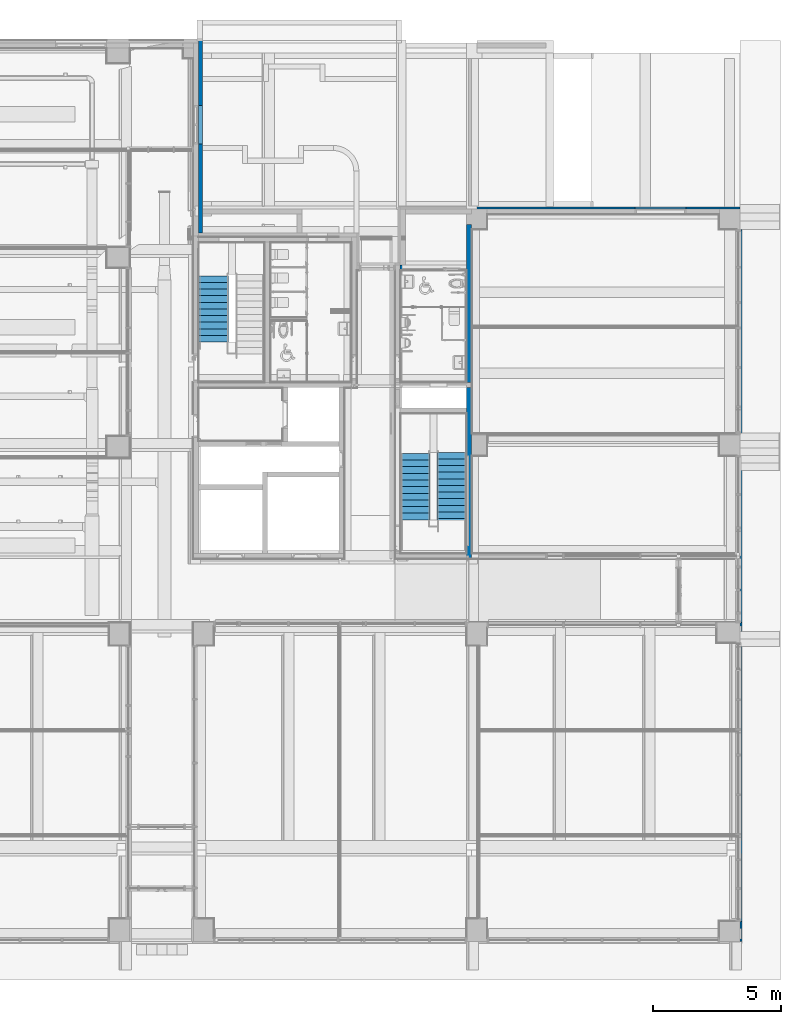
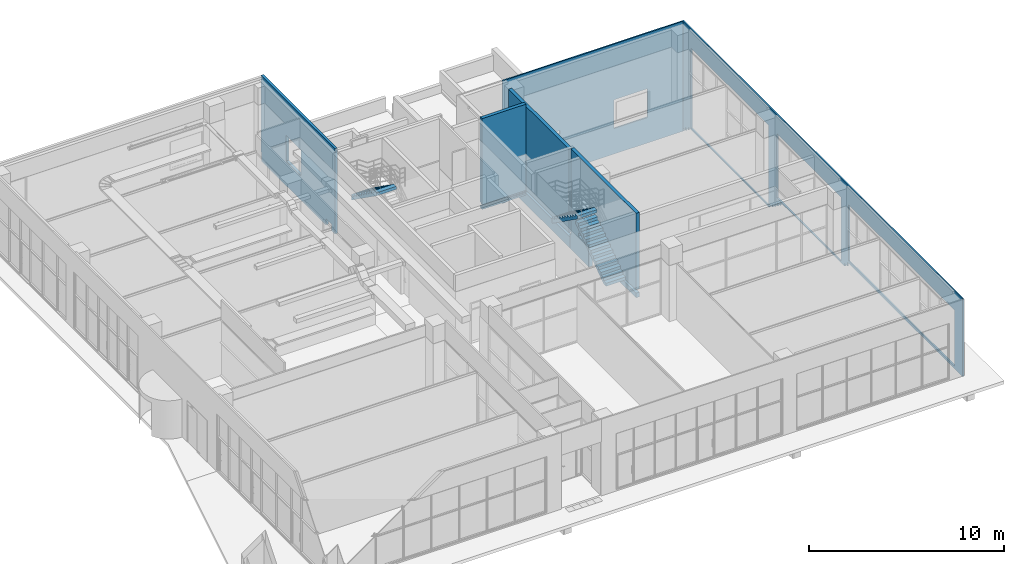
# One storey, part 68 of 100: 6 walls, 3 stair flights, 2 elements without a shape of their own.
"""IFC2X3 building model written with IfcOpenShell, lengths in millimetres."""

from ifc_helpers import new_model, entity, si_unit, converted_unit, derived_unit, direction, frame, origin, place, context, subcontext, project, spatial, faceted_brep, material, layer, layer_set, type_object, element, aggregate, save


model = new_model("IFC2X3")

# Units and contexts
model_context = context("Model", 3, precision=0.01, world=origin(), true_north=direction((6.123031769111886e-17, 1.0)))
body_context = subcontext(model_context, "Body", "Model", "MODEL_VIEW")
ifc_project = project(units=[si_unit("LENGTHUNIT", "METRE", prefix="MILLI"), si_unit("AREAUNIT", "SQUARE_METRE"), si_unit("VOLUMEUNIT", "CUBIC_METRE"), converted_unit("PLANEANGLEUNIT", "DEGREE", entity("IfcRatioMeasure", 0.017453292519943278), si_unit("PLANEANGLEUNIT", "RADIAN"), dimensions=[0, 0, 0, 0, 0, 0, 0]), si_unit("MASSUNIT", "GRAM", prefix="KILO"), derived_unit("MASSDENSITYUNIT", [(si_unit("MASSUNIT", "GRAM", prefix="KILO"), 1), (si_unit("LENGTHUNIT", "METRE"), -3)]), derived_unit("MOMENTOFINERTIAUNIT", [(si_unit("LENGTHUNIT", "METRE"), 4)]), si_unit("TIMEUNIT", "SECOND"), si_unit("FREQUENCYUNIT", "HERTZ"), si_unit("THERMODYNAMICTEMPERATUREUNIT", "DEGREE_CELSIUS"), derived_unit("THERMALTRANSMITTANCEUNIT", [(si_unit("MASSUNIT", "GRAM", prefix="KILO"), 1), (si_unit("THERMODYNAMICTEMPERATUREUNIT", "KELVIN"), -1), (si_unit("TIMEUNIT", "SECOND"), -3)]), derived_unit("VOLUMETRICFLOWRATEUNIT", [(si_unit("LENGTHUNIT", "METRE"), 3), (si_unit("TIMEUNIT", "SECOND"), -1)]), derived_unit("MASSFLOWRATEUNIT", [(si_unit("MASSUNIT", "GRAM", prefix="KILO"), 1), (si_unit("TIMEUNIT", "SECOND"), -1)]), derived_unit("ROTATIONALFREQUENCYUNIT", [(si_unit("TIMEUNIT", "SECOND"), -1)]), si_unit("ELECTRICCURRENTUNIT", "AMPERE"), si_unit("ELECTRICVOLTAGEUNIT", "VOLT"), si_unit("POWERUNIT", "WATT"), si_unit("FORCEUNIT", "NEWTON", prefix="KILO"), si_unit("ILLUMINANCEUNIT", "LUX"), si_unit("LUMINOUSFLUXUNIT", "LUMEN"), si_unit("LUMINOUSINTENSITYUNIT", "CANDELA"), derived_unit("USERDEFINED", [(si_unit("MASSUNIT", "GRAM", prefix="KILO"), -1), (si_unit("LENGTHUNIT", "METRE"), -2), (si_unit("TIMEUNIT", "SECOND"), 3), (si_unit("LUMINOUSFLUXUNIT", "LUMEN"), 1)]), derived_unit("SOUNDPOWERUNIT", [(si_unit("MASSUNIT", "GRAM", prefix="KILO"), 1), (si_unit("LENGTHUNIT", "METRE"), 2), (si_unit("TIMEUNIT", "SECOND"), -3)]), derived_unit("SOUNDPRESSUREUNIT", [(si_unit("MASSUNIT", "GRAM", prefix="KILO"), 1), (si_unit("LENGTHUNIT", "METRE"), -1), (si_unit("TIMEUNIT", "SECOND"), -2)]), derived_unit("LINEARVELOCITYUNIT", [(si_unit("LENGTHUNIT", "METRE"), 1), (si_unit("TIMEUNIT", "SECOND"), -1)]), si_unit("PRESSUREUNIT", "PASCAL"), derived_unit("USERDEFINED", [(si_unit("LENGTHUNIT", "METRE"), -2), (si_unit("MASSUNIT", "GRAM", prefix="KILO"), 1), (si_unit("TIMEUNIT", "SECOND"), -2)]), derived_unit("LINEARFORCEUNIT", [(si_unit("MASSUNIT", "GRAM", prefix="KILO"), 1), (si_unit("LENGTHUNIT", "METRE"), 1), (si_unit("TIMEUNIT", "SECOND"), -2), (si_unit("LENGTHUNIT", "METRE"), -1)]), derived_unit("PLANARFORCEUNIT", [(si_unit("MASSUNIT", "GRAM", prefix="KILO"), 1), (si_unit("LENGTHUNIT", "METRE"), 1), (si_unit("TIMEUNIT", "SECOND"), -2), (si_unit("LENGTHUNIT", "METRE"), -2)])], contexts=[model_context])

# Site, building, storey
site_placement = place(None, frame((-14167.972527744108, -657.2125860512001, 0.0)))
site = spatial("IfcSite", under=ifc_project, at=site_placement, Name="Default", CompositionType="ELEMENT")
building_placement = place(site_placement, origin())
building = spatial("IfcBuilding", under=site, at=building_placement, Name="Sample Building", CompositionType="ELEMENT")
storey_placement = place(building_placement, origin())
storey = spatial("IfcBuildingStorey", under=building, at=storey_placement, Name="지상 1층", CompositionType="ELEMENT", Elevation=0.0)

# Walls
ifc_material_1 = material(Name="KBIMS-콘크리트")
ifc_layer_1 = layer(ifc_material_1, 200.0)
ifc_layer_set_1 = layer_set([ifc_layer_1], Name="기본 벽:WA111-철근콘크리트구조 벽 200mm_CW1")
wall_type_1 = type_object("IfcWallType", Name="기본 벽:WA111-철근콘크리트구조 벽 200mm_CW1", PredefinedType="STANDARD", material=ifc_layer_set_1)
wall_1_placement = place(storey_placement, frame((40867.96379814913, 15557.212295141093, -1500.0), z_axis=(0.0, 0.0, 1.0), x_axis=(0.0, 1.0, 0.0)))
element("IfcWall", 1, at=wall_1_placement, inside=storey, type_object=wall_type_1, Name="기본 벽:WA111-철근콘크리트구조 벽 200mm_CW1", ObjectType="기본 벽:WA111-철근콘크리트구조 벽 200mm_CW1", context=body_context, shape_type="Brep", body=[
    faceted_brep([(0.0, -100.0, 1000.0), (200.0, -100.0, 1000.0), (4037.5000128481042, -100.0, 1000.0), (4800.000087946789, -100.0, 1000.0), (4837.500012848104, -100.0, 1000.0), (4837.500012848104, -100.0, 0.0), (6800.0, -100.0, 0.0), (6800.0, -100.0, 700.0), (6800.0, -100.0, 900.0), (6700.0, -100.0, 900.0), (6700.0, -100.0, 6300.0), (200.0, -100.0, 6300.0), (0.0, -100.0, 6300.0), (0.0, -100.0, 6150.0), (0.0, -100.0, 1500.0), (4037.5000128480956, -100.0, 1500.0), (4837.500012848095, -100.0, 1500.0), (5900.0, -100.0, 1500.0), (5900.0, -100.0, 1300.0), (0.0, -100.0, 1300.0), (4837.500012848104, 100.0, 1000.0), (0.0, 100.0, 1000.0), (0.0, 100.0, 1300.0), (5900.0, 100.0, 1300.0), (5900.0, 100.0, 1500.0), (5700.0, 100.0, 1500.0), (200.0, 100.0, 1500.0), (0.0, 100.0, 1500.0), (0.0, 100.0, 6300.0), (200.0, 100.0, 6300.0), (5700.0, 100.0, 6300.0), (5900.0, 100.0, 6300.0), (6700.0, 100.0, 6300.0), (6700.0, 100.0, 900.0), (6800.0, 100.0, 900.0), (6800.0, 100.0, 700.0), (6800.0, 100.0, 0.0), (4837.500012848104, 100.0, 0.0), (0.0, 0.0, 1000.0)], [[[0, 1, 2, 3, 4, 5, 6, 7, 8, 9, 10, 11, 12, 13, 14, 15, 16, 17, 18, 19]], [[20, 21, 22, 23, 24, 25, 26, 27, 28, 29, 30, 31, 32, 33, 34, 35, 36, 37]], [[21, 38, 0, 19, 22]], [[10, 9, 33, 32]], [[4, 3, 2, 1, 0, 38, 21, 20]], [[12, 11, 10, 32, 31, 30, 29, 28]], [[6, 5, 37, 36]], [[36, 35, 34, 8, 7, 6]], [[9, 8, 34, 33]], [[5, 4, 20, 37]], [[18, 23, 22, 19]], [[24, 17, 16, 15, 14, 27, 26, 25]], [[23, 18, 17, 24]], [[12, 28, 27, 14, 13]]]),
])
wall_2_placement = place(storey_placement, frame((38167.96379814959, 26957.21229514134, -900.0)))
element("IfcWall", 2, at=wall_2_placement, inside=storey, type_object=wall_type_1, Name="기본 벽:WA111-철근콘크리트구조 벽 200mm_CW1", ObjectType="기본 벽:WA111-철근콘크리트구조 벽 200mm_CW1", context=body_context, shape_type="Brep", body=[
    faceted_brep([(0.0, -100.0, 0.0), (75.28210094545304, -100.0, 0.0), (2600.0, -100.0, 0.0), (2600.0, -100.0, 100.0), (75.28210094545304, -100.0, 100.0), (0.0, -100.0, 100.0), (2600.0, 100.0, 0.0), (75.28210094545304, 100.0, 0.0), (0.0, 100.0, 0.0), (0.0, 100.0, 150.0), (75.28210094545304, 100.0, 150.0), (2600.0, 100.0, 150.0), (2600.0, -36.135192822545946, 0.0), (0.0, 0.0, 100.0), (0.0, 0.0, 150.0), (2600.0, 0.0, 150.0), (2600.0, 0.0, 100.0)], [[[0, 1, 2, 3, 4, 5]], [[6, 7, 8, 9, 10, 11]], [[2, 1, 0, 8, 7, 6, 12]], [[8, 0, 5, 13, 14, 9]], [[2, 12, 6, 11, 15, 16, 3]], [[11, 10, 9, 14, 15]], [[16, 13, 5, 4, 3]], [[13, 16, 15, 14]]]),
    faceted_brep([(0.0, -100.0, 5700.0), (2600.0, -100.0, 5700.0), (2600.0, 100.0, 5700.0), (200.00869297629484, 100.0, 5700.0), (0.0, 100.0, 5700.0), (2600.0, -100.0, 300.0), (0.0, -100.0, 300.0), (0.0, 0.0, 300.0), (2600.0, 0.0, 300.0), (2600.0, 0.0, 350.0), (0.0, 0.0, 350.0), (0.0, 100.0, 350.0), (200.00869297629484, 100.0, 350.0), (2600.0, 100.0, 350.0), (-0.008736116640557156, 0.0, 350.0), (0.0, -100.0, 350.0)], [[[0, 1, 2, 3, 4]], [[5, 6, 7, 8]], [[9, 10, 11, 12, 13]], [[14, 9, 8, 7]], [[2, 1, 5, 8, 9, 13]], [[0, 4, 11, 10, 7, 6, 15]], [[4, 3, 2, 13, 12, 11]], [[1, 0, 15, 6, 5]]]),
])
wall_3_placement = place(storey_placement, frame((40867.963798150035, 28657.212307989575, -1500.0), z_axis=(0.0, 0.0, 1.0), x_axis=(0.0, -1.0, 0.0)))
element("IfcWall", 3, at=wall_3_placement, inside=storey, type_object=wall_type_1, Name="기본 벽:WA111-철근콘크리트구조 벽 200mm_CW1", ObjectType="기본 벽:WA111-철근콘크리트구조 벽 200mm_CW1", context=body_context, shape_type="Brep", body=[
    faceted_brep([(0.0, -100.0, 0.0), (6300.0, -100.0, 0.0), (6300.0, -100.0, 700.0), (6286.1351894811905, -100.0, 700.0), (5886.1351894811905, -100.0, 700.0), (1849.9997037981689, -100.0, 700.0), (1800.0000128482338, -100.0, 700.0), (1700.0000128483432, -100.0, 700.0), (1700.0000128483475, -100.0, 750.0), (1600.0000128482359, -100.0, 750.0), (1436.1352056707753, -100.0, 750.0), (0.0, -100.0, 750.0), (6300.0, 100.0, 0.0), (199.99969094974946, 100.0, 0.0), (0.0, 100.0, 0.0), (0.0, 100.0, 750.0), (1700.0000128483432, 100.0, 750.0), (1700.0000128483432, 100.0, 700.0), (6300.0, 100.0, 700.0)], [[[0, 1, 2, 3, 4, 5, 6, 7, 8, 9, 10, 11]], [[12, 13, 14, 15, 16, 17, 18]], [[1, 0, 14, 13, 12]], [[1, 12, 18, 2]], [[14, 0, 11, 15]], [[11, 10, 9, 8, 16, 15]], [[17, 7, 6, 5, 4, 3, 2, 18]], [[7, 17, 16, 8]]]),
    faceted_brep([(0.0, -100.0, 6150.0), (6200.0, -100.0, 6150.0), (6200.0, 100.0, 6150.0), (199.99969094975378, 100.0, 6150.0), (0.0, 100.0, 6150.0), (6200.0, -100.0, 900.0), (6200.0, 100.0, 900.0), (1700.0000128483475, 100.0, 950.0), (1700.0000128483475, -100.0, 950.0), (1600.0000128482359, -100.0, 950.0), (0.0, -100.0, 950.0), (0.0, 100.0, 950.0), (1700.0000128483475, 100.0, 900.0), (1700.0000128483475, -100.0, 900.0), (1800.0000128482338, -100.0, 900.0), (0.0, 100.0, 1500.0)], [[[0, 1, 2, 3, 4]], [[1, 5, 6, 2]], [[7, 8, 9, 10, 11]], [[8, 7, 12, 13]], [[5, 14, 13, 12, 6]], [[0, 4, 15, 11, 10]], [[4, 3, 2, 6, 12, 7, 11, 15]], [[1, 0, 10, 9, 8, 13, 14, 5]]]),
])
ifc_material_2 = material(Name="KBIMS-화강석 잔다듬")
ifc_layer_2 = layer(ifc_material_2, 80.0)
ifc_layer_set_2 = layer_set([ifc_layer_2], Name="기본 벽:WA313-화강석잔다듬 벽 (30, 건식50) 80mm")
wall_type_2 = type_object("IfcWallType", Name="기본 벽:WA313-화강석잔다듬 벽 (30, 건식50) 80mm", PredefinedType="STANDARD", material=ifc_layer_set_2)
wall_4_placement = place(storey_placement, frame((51507.96382893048, 557.2126170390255, -2100.0), z_axis=(0.0, 0.0, 1.0), x_axis=(0.0, 1.0, 0.0)))
element("IfcWall", 4, at=wall_4_placement, inside=storey, type_object=wall_type_2, Name="기본 벽:WA313-화강석잔다듬 벽 (30, 건식50) 80mm", ObjectType="기본 벽:WA313-화강석잔다듬 벽 (30, 건식50) 80mm", context=body_context, shape_type="Brep", body=[
    faceted_brep([(28779.99967810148, -40.0, 6900.0), (28699.999678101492, -40.0, 6900.0), (0.0, -40.0, 6900.0), (0.0, -40.0, 2100.0), (0.0, -40.0, 2016.6666666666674), (11830.000112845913, -40.0, 2016.6666666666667), (11830.000112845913, -40.0, 1766.6666666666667), (12100.000112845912, -40.0, 1766.6666666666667), (12100.000112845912, -40.0, 1600.0), (18719.999690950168, -40.0, 1600.0), (18719.999690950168, -40.0, 1400.0), (18989.999690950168, -40.0, 1400.0), (18989.999690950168, -40.0, 1200.0), (19259.999690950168, -40.0, 1200.0), (19259.999690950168, -40.0, 1000.0), (19529.999690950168, -40.0, 1000.0), (19529.999690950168, -40.0, 800.0), (19849.99969095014, -40.0, 800.0), (19849.99969095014, -40.0, 600.0), (28159.999678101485, -40.0, 600.0), (28159.999678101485, -40.0, 400.0), (28429.999678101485, -40.0, 400.0), (28429.999678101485, -40.0, 200.0), (28699.999678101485, -40.0, 200.0), (28699.999678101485, -40.0, 0.0), (28779.99967810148, -40.0, 0.0), (799.9818523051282, -40.0, 2180.0), (799.9818523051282, -40.0, 5700.0), (11700.000421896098, -40.0, 5700.0), (11700.000421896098, -40.0, 2180.0), (19899.999690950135, -40.0, 680.0), (19899.999690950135, -40.0, 5700.0), (27882.000087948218, -40.0, 5700.0), (27882.000087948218, -40.0, 680.0), (12499.999766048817, -40.0, 1680.0), (12499.999766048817, -40.0, 5700.0), (19039.999766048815, -40.0, 5700.0), (19039.999766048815, -40.0, 1680.0), (0.0, 40.0, 6900.0), (28699.999678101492, 40.0, 6900.0), (28779.99967810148, 40.0, 6900.0), (28779.99967810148, 40.0, 0.0), (28699.999678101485, 40.0, 0.0), (28699.999678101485, 40.0, 200.0), (28429.999678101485, 40.0, 200.0), (28429.999678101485, 40.0, 400.0), (28159.999678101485, 40.0, 400.0), (28159.999678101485, 40.0, 600.0), (19849.99969095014, 40.0, 600.0), (19849.99969095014, 40.0, 800.0), (19529.999690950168, 40.0, 800.0), (19529.999690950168, 40.0, 1000.0), (19259.999690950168, 40.0, 1000.0), (19259.999690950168, 40.0, 1200.0), (18989.999690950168, 40.0, 1200.0), (18989.999690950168, 40.0, 1400.0), (18719.999690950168, 40.0, 1400.0), (18719.999690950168, 40.0, 1600.0), (12100.000112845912, 40.0, 1600.0), (12100.000112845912, 40.0, 1766.6666666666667), (11830.000112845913, 40.0, 1766.6666666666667), (11830.000112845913, 40.0, 2016.6666666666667), (0.0, 40.0, 2016.6666666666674), (799.9818523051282, 40.0, 5700.0), (799.9818523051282, 40.0, 2180.0), (11700.000421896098, 40.0, 2180.0), (11700.000421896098, 40.0, 5700.0), (19899.999690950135, 40.0, 5700.0), (19899.999690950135, 40.0, 680.0), (27882.000087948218, 40.0, 680.0), (27882.000087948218, 40.0, 5700.0), (12499.999766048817, 40.0, 5700.0), (12499.999766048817, 40.0, 1680.0), (19039.999766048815, 40.0, 1680.0), (19039.999766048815, 40.0, 5700.0)], [[[0, 1, 2, 3, 4, 5, 6, 7, 8, 9, 10, 11, 12, 13, 14, 15, 16, 17, 18, 19, 20, 21, 22, 23, 24, 25], [26, 27, 28, 29], [30, 31, 32, 33], [34, 35, 36, 37]], [[38, 39, 40, 41, 42, 43, 44, 45, 46, 47, 48, 49, 50, 51, 52, 53, 54, 55, 56, 57, 58, 59, 60, 61, 62], [63, 64, 65, 66], [67, 68, 69, 70], [71, 72, 73, 74]], [[4, 3, 2, 38, 62]], [[0, 25, 41, 40]], [[26, 64, 63, 27]], [[65, 29, 28, 66]], [[64, 26, 29, 65]], [[66, 28, 27, 63]], [[67, 31, 30, 68]], [[31, 67, 70, 32]], [[32, 70, 69, 33]], [[68, 30, 33, 69]], [[2, 1, 0, 40, 39, 38]], [[5, 4, 62, 61]], [[6, 5, 61, 60]], [[7, 6, 60, 59]], [[8, 7, 59, 58]], [[9, 8, 58, 57]], [[10, 9, 57, 56]], [[11, 10, 56, 55]], [[12, 11, 55, 54]], [[13, 12, 54, 53]], [[14, 13, 53, 52]], [[15, 14, 52, 51]], [[16, 15, 51, 50]], [[17, 16, 50, 49]], [[18, 17, 49, 48]], [[19, 18, 48, 47]], [[20, 19, 47, 46]], [[21, 20, 46, 45]], [[22, 21, 45, 44]], [[23, 22, 44, 43]], [[24, 23, 43, 42]], [[25, 24, 42, 41]], [[34, 72, 71, 35]], [[35, 71, 74, 36]], [[36, 74, 73, 37]], [[72, 34, 37, 73]]]),
])
wall_5_placement = place(storey_placement, frame((51467.96382893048, 29297.212295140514, -2901.522070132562), z_axis=(0.0, 0.0, 1.0), x_axis=(-1.0, 0.0, 0.0)))
element("IfcWall", 5, at=wall_5_placement, inside=storey, type_object=wall_type_2, Name="기본 벽:WA313-화강석잔다듬 벽 (30, 건식50) 80mm", ObjectType="기본 벽:WA313-화강석잔다듬 벽 (30, 건식50) 80mm", context=body_context, shape_type="Brep", body=[
    faceted_brep([(10705.0, -40.0, 7701.52207013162), (0.0, -40.0, 7701.52207013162), (0.0, -40.0, 801.5220701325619), (5800.411960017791, -40.0, 801.5220701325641), (10705.0, -40.0, 0.0), (10705.0, -40.0, 3101.522070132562), (10700.016622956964, -40.0, 3201.522070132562), (7300.01662295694, -40.0, 3201.522070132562), (7300.01662295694, -40.0, 3401.522070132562), (10700.016622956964, -40.0, 3401.522070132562), (4099.991337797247, -40.0, 4201.522070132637), (4099.991337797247, -40.0, 2401.522070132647), (2099.9913377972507, -40.0, 2401.522070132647), (2099.9913377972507, -40.0, 4201.522070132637), (7300.01662295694, 40.0, 3201.522070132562), (10700.016622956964, 40.0, 3201.522070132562), (10700.016622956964, 40.0, 3401.522070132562), (7300.01662295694, 40.0, 3401.522070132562), (0.0, 40.0, 7701.52207013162), (10700.00872376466, 40.0, 7701.52207013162), (10705.0, 40.0, 7701.52207013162), (10705.0, 40.0, 3101.522070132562), (10705.0, 40.0, 0.0), (5800.411960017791, 40.0, 801.5220701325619), (0.0, 40.0, 801.5220701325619), (0.0, 40.0, 1001.5220701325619), (4099.991337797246, 40.0, 2401.522070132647), (4099.991337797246, 40.0, 4201.522070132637), (2099.9913377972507, 40.0, 4201.522070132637), (2099.9913377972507, 40.0, 2401.522070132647)], [[[0, 1, 2, 3, 4, 5], [6, 7, 8, 9], [10, 11, 12, 13]], [[14, 15, 16, 17], [18, 19, 20, 21, 22, 23, 24, 25], [26, 27, 28, 29]], [[2, 24, 23, 3]], [[20, 0, 5, 4, 22, 21]], [[1, 0, 20, 19, 18]], [[6, 15, 14, 7]], [[8, 17, 16, 9]], [[7, 14, 17, 8]], [[15, 6, 9, 16]], [[4, 3, 23, 22]], [[1, 18, 25, 24, 2]], [[27, 26, 11, 10]], [[28, 27, 10, 13]], [[29, 28, 13, 12]], [[26, 29, 12, 11]]], outer=[[True, False, False], [False, True, False], [True], [True], [True], [True], [True], [True], [True], [True], [True], [True], [True], [True], [True]]),
])
ifc_material_3 = material(Name="WA240-ALC블록벽")
ifc_layer_3 = layer(ifc_material_3, 35.0)
ifc_material_4 = material(Name="WA795-(STEEL)BRACKET")
ifc_layer_4 = layer(ifc_material_4, 65.0)
ifc_material_5 = material(Name="WA821-압출스티로폼 벽 (본드붙임, 비중0.03) 50mm")
ifc_layer_5 = layer(ifc_material_5, 50.0)
ifc_layer_set_3 = layer_set([ifc_layer_3, ifc_layer_4, ifc_layer_5], Name="기본 벽:A2-22-02A-압출스티로폼, BRACKET(STEEL), ALC블록 (150mm)")
wall_type_3 = type_object("IfcWallType", Name="기본 벽:A2-22-02A-압출스티로폼, BRACKET(STEEL), ALC블록 (150mm)", PredefinedType="STANDARD", material=ifc_layer_set_3)
wall_6_placement = place(storey_placement, frame((30342.963761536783, 28307.212307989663, -550.0), z_axis=(0.0, 0.0, 1.0), x_axis=(0.0, 1.0, 0.0)))
element("IfcWall", 6, at=wall_6_placement, inside=storey, type_object=wall_type_3, Name="기본 벽:A2-22-02A-압출스티로폼, BRACKET(STEEL), ALC블록 (150mm)", ObjectType="기본 벽:A2-22-02A-압출스티로폼, BRACKET(STEEL), ALC블록 (150mm)", context=body_context, shape_type="Brep", body=[
    faceted_brep([(7525.0, 75.0, 0.0), (7525.0, -75.0, 0.0), (6135.330659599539, -75.0, 0.0), (5935.330659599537, -75.0, 0.0), (3435.3306220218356, -75.0, 0.0), (3235.3306220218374, -75.0, 0.0), (939.950237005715, -75.0, 0.0), (935.1737967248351, 0.03228448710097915, 0.0), (929.4729434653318, 75.0, 0.0), (338.85178240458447, -75.0, 0.0), (0.0, -75.0, 0.0), (0.0, 75.0, 0.0), (327.22477814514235, 75.0, 0.0), (333.5512018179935, 0.039758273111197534, 0.0), (338.85178240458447, -75.0, 400.0), (0.0, -75.0, 5350.0), (939.950237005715, -75.0, 400.0), (3499.999987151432, -75.0, 3150.0), (3499.999987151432, -75.0, 1550.0), (4999.999987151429, -75.0, 1550.0), (7525.0, -75.0, 550.0), (4999.999987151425, -75.0, 3150.0), (7600.0, -75.0, 5350.0), (7600.0, -75.0, 550.0), (7525.0, 75.0, 550.0), (4999.999987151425, 75.0, 1550.0), (4999.999987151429, 75.0, 3150.0), (7450.0, 75.0, 5350.0), (7600.0, 75.0, 5350.0), (7600.0, 75.0, 550.0), (3499.999987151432, 75.0, 1550.0), (929.4729434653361, 75.0, 400.0), (3499.999987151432, 75.0, 3150.0), (0.0, 75.0, 5350.0), (327.22477814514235, 75.0, 400.0), (935.1729994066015, 0.043699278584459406, 400.0), (333.5501652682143, 0.05313059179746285, 400.0)], [[[0, 1, 2, 3, 4, 5, 6, 7, 8]], [[9, 10, 11, 12, 13]], [[14, 10, 9]], [[14, 15, 10]], [[15, 14, 16]], [[15, 16, 17]], [[17, 16, 18]], [[5, 18, 16]], [[16, 6, 5]], [[4, 18, 5]], [[18, 4, 19]], [[19, 4, 3]], [[19, 3, 2]], [[20, 19, 2]], [[2, 1, 20]], [[20, 21, 19]], [[20, 22, 21]], [[22, 20, 23]], [[17, 21, 22]], [[17, 22, 15]], [[24, 0, 25]], [[24, 25, 26]], [[27, 24, 26]], [[28, 24, 27]], [[29, 24, 28]], [[0, 30, 25]], [[8, 30, 0]], [[30, 8, 31]], [[32, 30, 31]], [[31, 33, 32]], [[33, 31, 34]], [[34, 11, 33]], [[12, 11, 34]], [[32, 33, 27]], [[27, 26, 32]], [[15, 22, 28, 27, 33]], [[33, 11, 10, 15]], [[20, 1, 0, 24]], [[20, 24, 29, 23]], [[22, 23, 29, 28]], [[35, 16, 14, 36, 34, 31]], [[7, 6, 16]], [[35, 7, 16]], [[31, 8, 35]], [[7, 35, 8]], [[34, 36, 12]], [[12, 36, 13]], [[13, 14, 9]], [[14, 13, 36]], [[26, 25, 19, 21]], [[32, 26, 21, 17]], [[30, 32, 17, 18]], [[25, 30, 18, 19]]]),
])

# Stair, stair flight
stair_1_placement = place(storey_placement, origin())
stair_1 = element("IfcStair", 7, at=stair_1_placement, inside=storey, Name="현장타설 계단:계단", ObjectType="현장타설 계단:ST111-철근콘크리트구조 계단 (U형)", ShapeType="NOTDEFINED")
stair_flight_type_1 = type_object("IfcStairFlightType", Name="일체형 계단진행:일체형 계단진행 150mm_철근콘크리트", PredefinedType="STRAIGHT")
stair_flight_1_placement = place(stair_1_placement, frame((30276.125814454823, 24039.72572933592, 0.0)))
stair_flight_1 = element("IfcStairFlight", 8, at=stair_flight_1_placement, type_object=stair_flight_type_1, material=ifc_material_1, Name="현장타설 계단:계단:5949467 Run 3", ObjectType="일체형 계단진행:일체형 계단진행 150mm_철근콘크리트", NumberOfRiser=11, NumberOfTreads=10, RiserHeight=0.6056935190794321, TreadLength=0.8530183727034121, context=body_context, shape_type="Brep", body=[
    faceted_brep([(1171.8545000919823, 2600.0, 2953.846153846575), (0.0, 2600.0, 2953.846153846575), (0.0, 2552.1620564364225, 2953.846153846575), (0.0, 2340.0, 2953.846153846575), (1171.8545000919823, 2340.0, 2953.846153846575), (1171.8545000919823, 2552.1620564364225, 2953.846153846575), (1171.8545000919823, 2340.0, 2769.8783832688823), (1171.8545000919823, 2552.1620564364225, 2619.230769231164), (1171.8545000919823, 2600.0, 2619.230769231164), (1171.8545000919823, 2600.0, 2769.230769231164), (0.0, 2600.0, 2619.230769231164), (0.0, 2600.0, 2769.230769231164), (0.0, 2552.162056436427, 2619.2307692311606), (0.0, 2340.0, 2769.8783832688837), (1171.8545000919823, 2080.0, 3138.4615384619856), (1171.8545000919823, 2340.0, 3138.4615384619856), (0.0, 2340.0, 3138.4615384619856), (0.0, 2080.0, 3138.4615384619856), (1171.8545000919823, 2080.0, 2954.4937678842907), (0.0, 2080.0, 2954.4937678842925), (1171.8545000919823, 1820.0, 3323.0769230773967), (1171.8545000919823, 2080.0, 3323.0769230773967), (0.0, 2080.0, 3323.0769230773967), (0.0, 1820.0, 3323.0769230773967), (1171.8545000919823, 1820.0, 3139.109152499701), (0.0, 1820.0, 3139.1091524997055), (1171.8545000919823, 1560.0, 3507.6923076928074), (1171.8545000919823, 1820.0, 3507.6923076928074), (0.0, 1820.0, 3507.6923076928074), (0.0, 1560.0, 3507.6923076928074), (1171.8545000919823, 1560.0, 3323.7245371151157), (0.0, 1560.0, 3323.7245371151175), (1171.854500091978, 1300.0, 3692.3076923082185), (1171.854500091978, 1560.0, 3692.3076923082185), (0.0, 1560.0, 3692.3076923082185), (0.0, 1300.0, 3692.3076923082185), (1171.854500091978, 1300.0, 3508.339921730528), (0.0, 1300.0, 3508.3399217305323), (1171.854500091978, 1040.0, 3876.923076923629), (1171.854500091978, 1300.0, 3876.923076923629), (0.0, 1300.0, 3876.923076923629), (0.0, 1040.0, 3876.923076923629), (1171.854500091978, 1040.0, 3692.9553063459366), (0.0, 1040.0, 3692.9553063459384), (1171.854500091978, 780.0, 4061.5384615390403), (1171.854500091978, 1040.0, 4061.5384615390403), (0.0, 1040.0, 4061.5384615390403), (0.0, 780.0, 4061.5384615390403), (1171.854500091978, 780.0, 3877.570690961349), (0.0, 780.0, 3877.5706909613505), (1171.854500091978, 520.0, 4246.1538461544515), (1171.854500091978, 780.0, 4246.1538461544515), (0.0, 780.0, 4246.1538461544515), (0.0, 520.0, 4246.1538461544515), (1171.854500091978, 520.0, 4062.1860755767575), (0.0, 520.0, 4062.18607557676), (1171.854500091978, 260.0, 4430.769230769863), (1171.854500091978, 520.0, 4430.769230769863), (0.0, 520.0, 4430.769230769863), (0.0, 260.0, 4430.769230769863), (1171.854500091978, 260.0, 4246.801460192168), (0.0, 260.0, 4246.801460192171), (1171.854500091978, 0.0, 4615.384615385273), (1171.854500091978, 260.0, 4615.384615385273), (0.0, 260.0, 4615.384615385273), (0.0, 0.0, 4615.384615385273), (1171.854500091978, 0.0, 4431.416844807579), (0.0, 0.0, 4431.416844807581)], [[[0, 1, 2, 3, 4, 5]], [[4, 6, 7, 8, 9, 0, 5]], [[1, 0, 9, 8, 10, 11]], [[1, 11, 10, 12, 13, 3, 2]], [[14, 15, 16, 17]], [[15, 14, 18, 6, 4]], [[16, 15, 4, 3]], [[17, 16, 3, 13, 19]], [[20, 21, 22, 23]], [[21, 20, 24, 18, 14]], [[22, 21, 14, 17]], [[23, 22, 17, 19, 25]], [[26, 27, 28, 29]], [[27, 26, 30, 24, 20]], [[28, 27, 20, 23]], [[29, 28, 23, 25, 31]], [[32, 33, 34, 35]], [[33, 32, 36, 30, 26]], [[34, 33, 26, 29]], [[35, 34, 29, 31, 37]], [[38, 39, 40, 41]], [[39, 38, 42, 36, 32]], [[40, 39, 32, 35]], [[41, 40, 35, 37, 43]], [[44, 45, 46, 47]], [[45, 44, 48, 42, 38]], [[46, 45, 38, 41]], [[47, 46, 41, 43, 49]], [[50, 51, 52, 53]], [[51, 50, 54, 48, 44]], [[52, 51, 44, 47]], [[53, 52, 47, 49, 55]], [[56, 57, 58, 59]], [[57, 56, 60, 54, 50]], [[58, 57, 50, 53]], [[59, 58, 53, 55, 61]], [[62, 63, 64, 65]], [[63, 62, 66, 60, 56]], [[64, 63, 56, 59]], [[65, 64, 59, 61, 67]], [[62, 65, 67, 66]], [[12, 7, 6, 18, 24, 30, 36, 42, 48, 54, 60, 66, 67, 61, 55, 49, 43, 37, 31, 25, 19, 13]], [[7, 12, 10, 8]]]),
])
aggregate(stair_1, [stair_flight_1])

# Stair, stair flights
stair_2_placement = place(storey_placement, origin())
stair_2 = element("IfcStair", 9, at=stair_2_placement, inside=storey, Name="현장타설 계단:계단", ObjectType="현장타설 계단:ST111-철근콘크리트구조 계단 (U형)", ShapeType="NOTDEFINED")
stair_flight_type_2 = type_object("IfcStairFlightType", Name="일체형 계단진행:일체형 계단진행 150mm_철근콘크리트", PredefinedType="STRAIGHT")
stair_flight_2_placement = place(stair_2_placement, frame((39599.81829824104, 16607.21229179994, 0.0)))
stair_flight_2 = element("IfcStairFlight", 10, at=stair_flight_2_placement, type_object=stair_flight_type_2, material=ifc_material_1, Name="현장타설 계단:계단:5959493 Run 1", ObjectType="일체형 계단진행:일체형 계단진행 150mm_철근콘크리트", NumberOfRiser=13, NumberOfTreads=12, RiserHeight=0.6056935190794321, TreadLength=0.8530183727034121, context=body_context, shape_type="Brep", body=[
    faceted_brep([(0.0, 260.0, 184.615384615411), (0.0, 0.0, 184.615384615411), (1159.9921765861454, 0.0, 184.615384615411), (1159.992176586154, 260.0, 184.615384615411), (0.0, 260.0, 0.6476140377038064), (0.0, 259.08794356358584, 0.0), (0.0, 0.0, 0.0), (1159.9921765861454, 0.0, 0.0), (1159.992176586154, 259.0879435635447, 0.0), (1159.992176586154, 260.0, 0.6476140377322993), (0.0, 520.0, 369.2307692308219), (0.0, 260.0, 369.2307692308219), (1159.992176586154, 260.0, 369.2307692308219), (1159.9921765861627, 520.0, 369.2307692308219), (0.0, 520.0, 185.26299865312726), (1159.9921765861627, 520.0, 185.26299865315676), (0.0, 780.0, 553.8461538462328), (0.0, 520.0, 553.8461538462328), (1159.9921765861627, 520.0, 553.8461538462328), (1159.9921765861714, 780.0, 553.8461538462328), (0.0, 780.0, 369.87838326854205), (1159.9921765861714, 780.0, 369.8783832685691), (0.0, 1040.0, 738.4615384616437), (0.0, 780.0, 738.4615384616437), (1159.9921765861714, 780.0, 738.4615384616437), (1159.99217658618, 1040.0, 738.4615384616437), (0.0, 1040.0, 554.4937678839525), (1159.99217658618, 1040.0, 554.4937678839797), (0.0, 1300.0, 923.0769230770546), (0.0, 1040.0, 923.0769230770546), (1159.99217658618, 1040.0, 923.0769230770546), (1159.9921765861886, 1300.0, 923.0769230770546), (0.0, 1300.0, 739.109152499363), (1159.9921765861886, 1300.0, 739.1091524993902), (0.0, 1560.0, 1107.6923076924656), (0.0, 1300.0, 1107.6923076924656), (1159.9921765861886, 1300.0, 1107.6923076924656), (1159.9921765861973, 1560.0, 1107.6923076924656), (0.0, 1560.0, 923.7245371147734), (1159.9921765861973, 1560.0, 923.7245371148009), (0.0, 1820.0, 1292.3076923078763), (0.0, 1560.0, 1292.3076923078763), (1159.9921765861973, 1560.0, 1292.3076923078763), (1159.992176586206, 1820.0, 1292.3076923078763), (0.0, 1820.0, 1108.339921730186), (1159.992176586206, 1820.0, 1108.339921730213), (0.0, 2080.0, 1476.9230769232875), (0.0, 1820.0, 1476.9230769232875), (1159.992176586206, 1820.0, 1476.9230769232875), (1159.9921765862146, 2080.0, 1476.9230769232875), (0.0, 2080.0, 1292.9553063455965), (1159.9921765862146, 2080.0, 1292.9553063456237), (0.0, 2340.0, 1661.5384615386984), (0.0, 2080.0, 1661.5384615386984), (1159.9921765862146, 2080.0, 1661.5384615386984), (1159.9921765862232, 2340.0, 1661.5384615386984), (0.0, 2340.0, 1477.570690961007), (1159.9921765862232, 2340.0, 1477.5706909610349), (0.0, 2600.0, 1846.1538461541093), (0.0, 2340.0, 1846.1538461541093), (1159.9921765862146, 2340.0, 1846.1538461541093), (1159.9921765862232, 2600.0, 1846.1538461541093), (0.0, 2600.0, 1662.1860755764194), (1159.9921765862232, 2600.0, 1662.1860755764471), (0.0, 2860.0, 2030.7692307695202), (0.0, 2600.0, 2030.7692307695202), (1159.9921765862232, 2600.0, 2030.7692307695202), (1159.992176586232, 2860.0, 2030.7692307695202), (0.0, 2860.0, 1846.8014601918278), (1159.992176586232, 2860.0, 1846.8014601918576), (0.0, 3120.0, 2031.4168448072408), (1159.9921765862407, 3120.0, 2031.4168448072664), (0.0, 3120.0, 2215.3846153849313), (0.0, 2860.0, 2215.3846153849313), (1159.992176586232, 2860.0, 2215.3846153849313), (1159.9921765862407, 3120.0, 2215.3846153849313)], [[[0, 1, 2, 3]], [[1, 0, 4, 5, 6]], [[2, 1, 6, 7]], [[3, 2, 7, 8, 9]], [[10, 11, 12, 13]], [[11, 10, 14, 4, 0]], [[0, 3, 12, 11]], [[13, 12, 3, 9, 15]], [[16, 17, 18, 19]], [[17, 16, 20, 14, 10]], [[10, 13, 18, 17]], [[19, 18, 13, 15, 21]], [[22, 23, 24, 25]], [[23, 22, 26, 20, 16]], [[16, 19, 24, 23]], [[25, 24, 19, 21, 27]], [[28, 29, 30, 31]], [[29, 28, 32, 26, 22]], [[22, 25, 30, 29]], [[31, 30, 25, 27, 33]], [[34, 35, 36, 37]], [[35, 34, 38, 32, 28]], [[28, 31, 36, 35]], [[37, 36, 31, 33, 39]], [[40, 41, 42, 43]], [[41, 40, 44, 38, 34]], [[34, 37, 42, 41]], [[43, 42, 37, 39, 45]], [[46, 47, 48, 49]], [[47, 46, 50, 44, 40]], [[40, 43, 48, 47]], [[49, 48, 43, 45, 51]], [[52, 53, 54, 55]], [[53, 52, 56, 50, 46]], [[46, 49, 54, 53]], [[55, 54, 49, 51, 57]], [[58, 59, 60, 61]], [[59, 58, 62, 56, 52]], [[52, 55, 60, 59]], [[61, 60, 55, 57, 63]], [[64, 65, 66, 67]], [[65, 64, 68, 62, 58]], [[58, 61, 66, 65]], [[67, 66, 61, 63, 69]], [[7, 6, 5, 8]], [[8, 5, 4, 14, 20, 26, 32, 38, 44, 50, 56, 62, 68, 70, 71, 69, 63, 57, 51, 45, 39, 33, 27, 21, 15, 9]], [[72, 73, 74, 75]], [[73, 72, 70, 68, 64]], [[64, 67, 74, 73]], [[75, 74, 67, 69, 71]], [[72, 75, 71, 70]]]),
])
stair_flight_type_3 = type_object("IfcStairFlightType", Name="일체형 계단진행:일체형 계단진행 150mm_철근콘크리트", PredefinedType="STRAIGHT")
stair_flight_3_placement = place(stair_2_placement, frame((38167.9637981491, 17079.72571314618, 0.0)))
stair_flight_3 = element("IfcStairFlight", 11, at=stair_flight_3_placement, type_object=stair_flight_type_3, material=ifc_material_1, Name="현장타설 계단:계단:5959493 Run 3", ObjectType="일체형 계단진행:일체형 계단진행 150mm_철근콘크리트", NumberOfRiser=11, NumberOfTreads=10, RiserHeight=0.6056935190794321, TreadLength=0.8530183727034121, context=body_context, shape_type="Brep", body=[
    faceted_brep([(1171.854500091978, 2600.0, 2953.846153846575), (0.0, 2600.0, 2953.846153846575), (0.0, 2552.1620564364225, 2953.846153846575), (0.0, 2340.0, 2953.846153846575), (1171.854500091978, 2340.0, 2953.846153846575), (1171.854500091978, 2552.1620564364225, 2953.846153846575), (1171.854500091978, 2340.0, 2769.8783832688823), (1171.854500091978, 2552.1620564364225, 2619.230769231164), (1171.854500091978, 2600.0, 2619.230769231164), (1171.854500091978, 2600.0, 2769.230769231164), (0.0, 2600.0, 2619.230769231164), (0.0, 2600.0, 2769.230769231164), (0.0, 2552.1620564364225, 2619.230769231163), (0.0, 2340.0, 2769.8783832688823), (1171.854500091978, 2080.0, 3138.4615384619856), (1171.854500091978, 2340.0, 3138.4615384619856), (0.0, 2340.0, 3138.4615384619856), (0.0, 2080.0, 3138.4615384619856), (1171.854500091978, 2080.0, 2954.493767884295), (0.0, 2080.0, 2954.4937678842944), (1171.854500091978, 1820.0, 3323.0769230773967), (1171.854500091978, 2080.0, 3323.0769230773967), (0.0, 2080.0, 3323.0769230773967), (0.0, 1820.0, 3323.0769230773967), (1171.854500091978, 1820.0, 3139.1091524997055), (0.0, 1820.0, 3139.1091524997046), (1171.854500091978, 1560.0, 3507.6923076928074), (1171.854500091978, 1820.0, 3507.6923076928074), (0.0, 1820.0, 3507.6923076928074), (0.0, 1560.0, 3507.6923076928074), (1171.854500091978, 1560.0, 3323.724537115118), (0.0, 1560.0, 3323.7245371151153), (1171.854500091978, 1300.0, 3692.3076923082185), (1171.854500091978, 1560.0, 3692.3076923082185), (0.0, 1560.0, 3692.3076923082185), (0.0, 1300.0, 3692.3076923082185), (1171.854500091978, 1300.0, 3508.3399217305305), (0.0, 1300.0, 3508.3399217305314), (1171.854500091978, 1040.0, 3876.923076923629), (1171.854500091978, 1300.0, 3876.923076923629), (0.0, 1300.0, 3876.923076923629), (0.0, 1040.0, 3876.923076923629), (1171.854500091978, 1040.0, 3692.955306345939), (0.0, 1040.0, 3692.9553063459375), (1171.854500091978, 780.0, 4061.5384615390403), (1171.854500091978, 1040.0, 4061.5384615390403), (0.0, 1040.0, 4061.5384615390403), (0.0, 780.0, 4061.5384615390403), (1171.854500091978, 780.0, 3877.5706909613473), (0.0, 780.0, 3877.570690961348), (1171.854500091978, 520.0, 4246.1538461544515), (1171.854500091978, 780.0, 4246.1538461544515), (0.0, 780.0, 4246.1538461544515), (0.0, 520.0, 4246.1538461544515), (1171.854500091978, 520.0, 4062.18607557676), (0.0, 520.0, 4062.1860755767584), (1171.854500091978, 260.0, 4430.769230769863), (1171.854500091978, 520.0, 4430.769230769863), (0.0, 520.0, 4430.769230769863), (0.0, 260.0, 4430.769230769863), (1171.854500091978, 260.0, 4246.80146019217), (0.0, 260.0, 4246.80146019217), (1171.8545000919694, 0.0, 4615.384615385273), (1171.8545000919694, 260.0, 4615.384615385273), (0.0, 260.0, 4615.384615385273), (0.0, 0.0, 4615.384615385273), (1171.8545000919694, 0.0, 4431.416844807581), (0.0, 0.0, 4431.416844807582)], [[[0, 1, 2, 3, 4, 5]], [[4, 6, 7, 8, 9, 0, 5]], [[1, 0, 9, 8, 10, 11]], [[1, 11, 10, 12, 13, 3, 2]], [[14, 15, 16, 17]], [[15, 14, 18, 6, 4]], [[16, 15, 4, 3]], [[17, 16, 3, 13, 19]], [[20, 21, 22, 23]], [[21, 20, 24, 18, 14]], [[22, 21, 14, 17]], [[23, 22, 17, 19, 25]], [[26, 27, 28, 29]], [[27, 26, 30, 24, 20]], [[28, 27, 20, 23]], [[29, 28, 23, 25, 31]], [[32, 33, 34, 35]], [[33, 32, 36, 30, 26]], [[34, 33, 26, 29]], [[35, 34, 29, 31, 37]], [[38, 39, 40, 41]], [[39, 38, 42, 36, 32]], [[40, 39, 32, 35]], [[41, 40, 35, 37, 43]], [[44, 45, 46, 47]], [[45, 44, 48, 42, 38]], [[46, 45, 38, 41]], [[47, 46, 41, 43, 49]], [[50, 51, 52, 53]], [[51, 50, 54, 48, 44]], [[52, 51, 44, 47]], [[53, 52, 47, 49, 55]], [[56, 57, 58, 59]], [[57, 56, 60, 54, 50]], [[58, 57, 50, 53]], [[59, 58, 53, 55, 61]], [[62, 63, 64, 65]], [[63, 62, 66, 60, 56]], [[64, 63, 56, 59]], [[65, 64, 59, 61, 67]], [[62, 65, 67, 66]], [[12, 7, 6, 18, 24, 30, 36, 42, 48, 54, 60, 66, 67, 61, 55, 49, 43, 37, 31, 25, 19, 13]], [[7, 12, 10, 8]]]),
])
aggregate(stair_2, [stair_flight_2, stair_flight_3])

save(model, "model.ifc")
